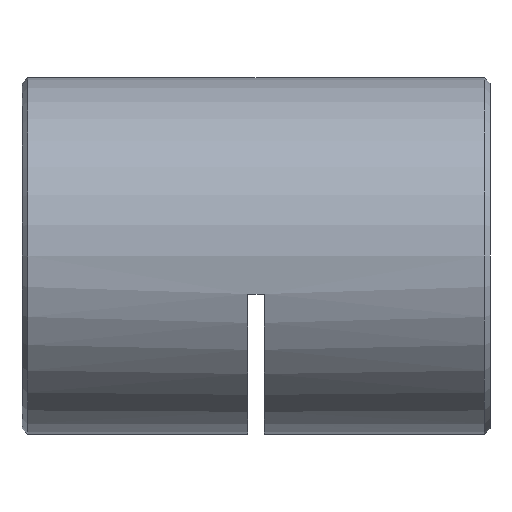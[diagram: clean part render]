
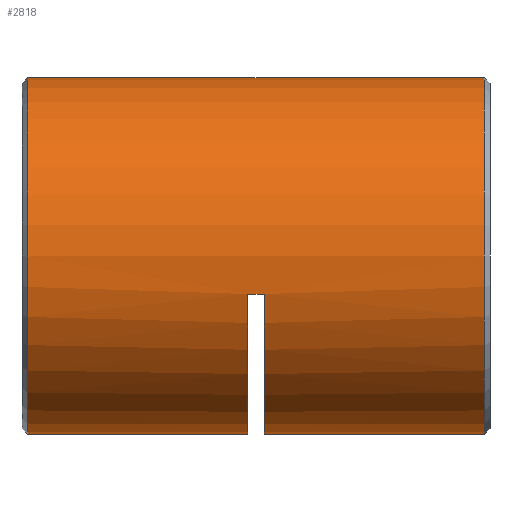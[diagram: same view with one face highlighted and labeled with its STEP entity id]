
A CAD part, left-side view. The second image highlights one B-rep face of the part: STEP entity #2818.
In plain terms, the highlighted cylindrical face has radius 16 mm (diameter 32 mm), a partial arc.
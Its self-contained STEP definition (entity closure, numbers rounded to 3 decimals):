
#42 = ORIENTED_EDGE ( 'NONE', *, *, #2030, .T. ) ;
#144 = EDGE_CURVE ( 'NONE', #295, #5645, #570, .T. ) ;
#274 = AXIS2_PLACEMENT_3D ( 'NONE', #3003, #2028, #4088 ) ;
#295 = VERTEX_POINT ( 'NONE', #3639 ) ;
#322 = LINE ( 'NONE', #3029, #807 ) ;
#497 = CARTESIAN_POINT ( 'NONE',  ( 0., 41.75, 16. ) ) ;
#570 = CIRCLE ( 'NONE', #3876, 16. ) ;
#612 = CARTESIAN_POINT ( 'NONE',  ( 0., 20.5, 0. ) ) ;
#632 = LINE ( 'NONE', #1558, #2015 ) ;
#807 = VECTOR ( 'NONE', #6024, 1000. ) ;
#888 = CARTESIAN_POINT ( 'NONE',  ( -15.632, 21.25, -3.413 ) ) ;
#1261 = DIRECTION ( 'NONE',  ( 0., -1., 0. ) ) ;
#1446 = CARTESIAN_POINT ( 'NONE',  ( 0., 20.5, -16. ) ) ;
#1558 = CARTESIAN_POINT ( 'NONE',  ( 0., 42.5, 16. ) ) ;
#1641 = CARTESIAN_POINT ( 'NONE',  ( 0., 41.75, 0. ) ) ;
#1805 = AXIS2_PLACEMENT_3D ( 'NONE', #1641, #2070, #5602 ) ;
#1817 = VERTEX_POINT ( 'NONE', #2118 ) ;
#1963 = CARTESIAN_POINT ( 'NONE',  ( 0., 22., -16. ) ) ;
#2015 = VECTOR ( 'NONE', #1261, 1000. ) ;
#2028 = DIRECTION ( 'NONE',  ( 0., -1., 0. ) ) ;
#2030 = EDGE_CURVE ( 'NONE', #6109, #4854, #4091, .T. ) ;
#2070 = DIRECTION ( 'NONE',  ( 0., -1., 0. ) ) ;
#2086 = EDGE_LOOP ( 'NONE', ( #2091, #42, #2917, #2146, #5807, #6148, #3736, #5674 ) ) ;
#2091 = ORIENTED_EDGE ( 'NONE', *, *, #5394, .F. ) ;
#2118 = CARTESIAN_POINT ( 'NONE',  ( 0., 0.75, -16. ) ) ;
#2130 = CARTESIAN_POINT ( 'NONE',  ( 0., 41.75, -16. ) ) ;
#2146 = ORIENTED_EDGE ( 'NONE', *, *, #5039, .F. ) ;
#2247 = CARTESIAN_POINT ( 'NONE',  ( -15.632, 22., -3.413 ) ) ;
#2252 = FACE_OUTER_BOUND ( 'NONE', #2086, .T. ) ;
#2371 = DIRECTION ( 'NONE',  ( 0., -1., 0. ) ) ;
#2545 = EDGE_CURVE ( 'NONE', #5645, #1817, #322, .T. ) ;
#2559 = VECTOR ( 'NONE', #3679, 1000. ) ;
#2572 = CIRCLE ( 'NONE', #274, 16. ) ;
#2818 = ADVANCED_FACE ( 'NONE', ( #2252 ), #5306, .T. ) ;
#2859 = EDGE_CURVE ( 'NONE', #3675, #295, #5446, .T. ) ;
#2917 = ORIENTED_EDGE ( 'NONE', *, *, #3031, .T. ) ;
#3003 = CARTESIAN_POINT ( 'NONE',  ( 0., 22., 0. ) ) ;
#3029 = CARTESIAN_POINT ( 'NONE',  ( 0., 42.5, -16. ) ) ;
#3031 = EDGE_CURVE ( 'NONE', #4854, #5696, #3991, .T. ) ;
#3082 = DIRECTION ( 'NONE',  ( 0., 0., -1. ) ) ;
#3320 = CARTESIAN_POINT ( 'NONE',  ( 0., 42.5, -16. ) ) ;
#3355 = CARTESIAN_POINT ( 'NONE',  ( 0., 42.5, 0. ) ) ;
#3639 = CARTESIAN_POINT ( 'NONE',  ( -15.632, 20.5, -3.413 ) ) ;
#3640 = CARTESIAN_POINT ( 'NONE',  ( 0., 0.75, 16. ) ) ;
#3675 = VERTEX_POINT ( 'NONE', #2247 ) ;
#3679 = DIRECTION ( 'NONE',  ( 0., -1., 0. ) ) ;
#3736 = ORIENTED_EDGE ( 'NONE', *, *, #2545, .T. ) ;
#3876 = AXIS2_PLACEMENT_3D ( 'NONE', #612, #4051, #3082 ) ;
#3991 = LINE ( 'NONE', #3320, #2559 ) ;
#4051 = DIRECTION ( 'NONE',  ( 0., -1., 0. ) ) ;
#4088 = DIRECTION ( 'NONE',  ( 0., 0., -1. ) ) ;
#4091 = CIRCLE ( 'NONE', #1805, 16. ) ;
#4285 = DIRECTION ( 'NONE',  ( 0., 1., 0. ) ) ;
#4380 = DIRECTION ( 'NONE',  ( 0., -1., 0. ) ) ;
#4846 = DIRECTION ( 'NONE',  ( 0., 0., -1. ) ) ;
#4854 = VERTEX_POINT ( 'NONE', #2130 ) ;
#5039 = EDGE_CURVE ( 'NONE', #3675, #5696, #2572, .T. ) ;
#5076 = CIRCLE ( 'NONE', #6115, 16. ) ;
#5206 = EDGE_CURVE ( 'NONE', #1817, #6310, #5076, .T. ) ;
#5306 = CYLINDRICAL_SURFACE ( 'NONE', #5509, 16. ) ;
#5394 = EDGE_CURVE ( 'NONE', #6109, #6310, #632, .T. ) ;
#5446 = LINE ( 'NONE', #888, #5928 ) ;
#5509 = AXIS2_PLACEMENT_3D ( 'NONE', #3355, #2371, #4846 ) ;
#5602 = DIRECTION ( 'NONE',  ( 0., 0., -1. ) ) ;
#5645 = VERTEX_POINT ( 'NONE', #1446 ) ;
#5674 = ORIENTED_EDGE ( 'NONE', *, *, #5206, .T. ) ;
#5696 = VERTEX_POINT ( 'NONE', #1963 ) ;
#5807 = ORIENTED_EDGE ( 'NONE', *, *, #2859, .T. ) ;
#5832 = CARTESIAN_POINT ( 'NONE',  ( 0., 0.75, 0. ) ) ;
#5928 = VECTOR ( 'NONE', #4380, 1000. ) ;
#6024 = DIRECTION ( 'NONE',  ( 0., -1., 0. ) ) ;
#6109 = VERTEX_POINT ( 'NONE', #497 ) ;
#6115 = AXIS2_PLACEMENT_3D ( 'NONE', #5832, #4285, #6294 ) ;
#6148 = ORIENTED_EDGE ( 'NONE', *, *, #144, .T. ) ;
#6294 = DIRECTION ( 'NONE',  ( 0., 0., 1. ) ) ;
#6310 = VERTEX_POINT ( 'NONE', #3640 ) ;
